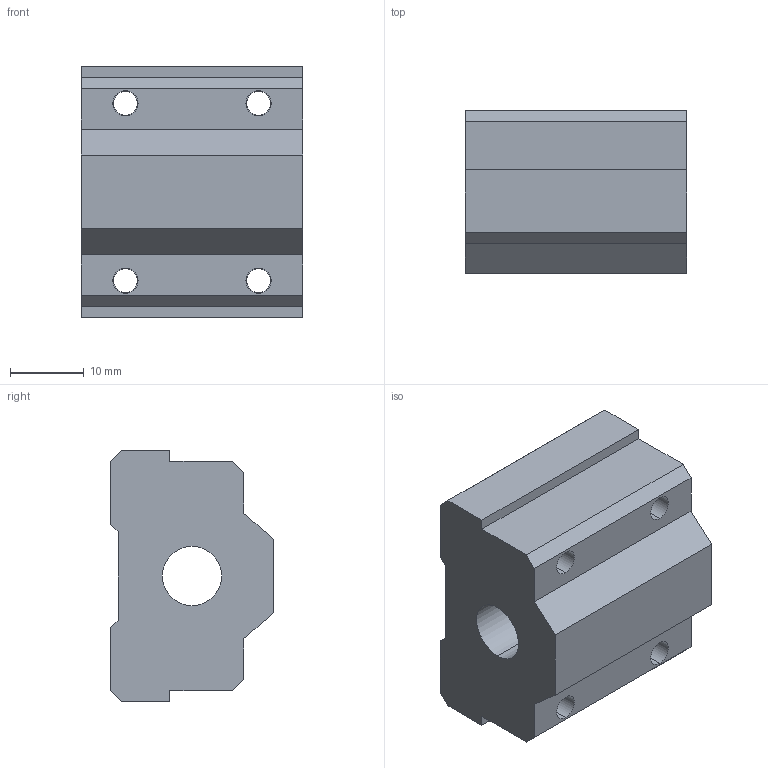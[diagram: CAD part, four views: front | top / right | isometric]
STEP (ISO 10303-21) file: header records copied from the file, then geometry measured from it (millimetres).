
FILE_DESCRIPTION (( 'STEP AP214' ), '1' );
FILE_NAME ('2.7088 Runko SCE8UU.STEP', '2024-06-25T08:31:00', ( '' ), ( '' ), 'SwSTEP 2.0', 'SolidWorks 2024', '' );
FILE_SCHEMA (( 'AUTOMOTIVE_DESIGN' ));
Length unit declared in the file: millimetre
Products named in the file (1): 2.7088 Runko SCE8UU
Bounding box: 30 x 22 x 34 mm (x, y, z)
Volume: 16416.6 mm3; surface area: 5717.6 mm2
Topology: 1 solids, 1 shells, 52 faces, 130 edges, 84 vertices
Faces by surface type: plane 26, cylinder 18, cone 8
Entity records: 2169 total; most frequent: DIRECTION 280, CARTESIAN_POINT 267, ORIENTED_EDGE 260, EDGE_CURVE 130, AXIS2_PLACEMENT_3D 97, LINE 86, VECTOR 86, VERTEX_POINT 84
